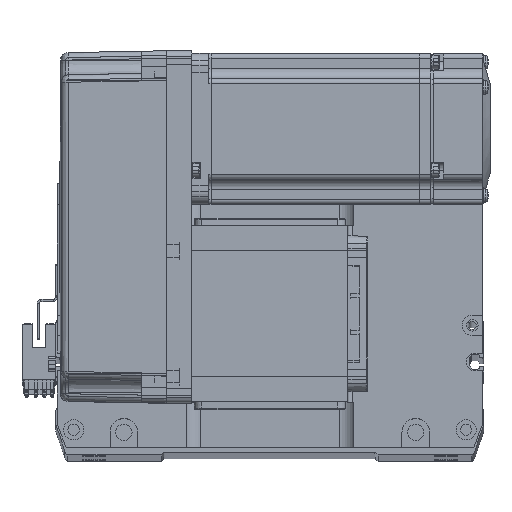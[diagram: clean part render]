
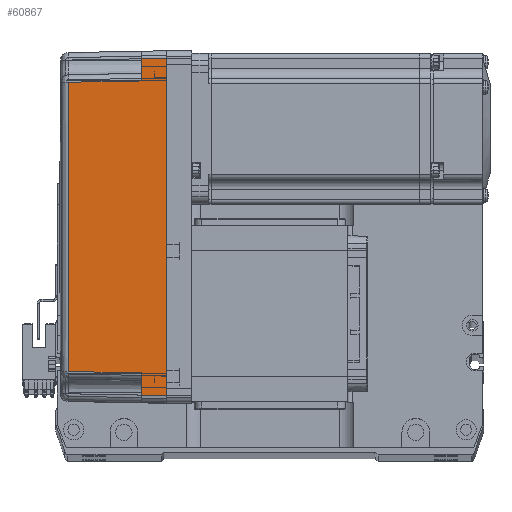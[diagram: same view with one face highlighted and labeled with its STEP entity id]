
A CAD part, top view. The second image highlights one B-rep face of the part: STEP entity #60867.
In plain terms, the highlighted planar face has unit normal (-0.018, 0, 1) as drawn and (0, 1, 0.017) by its records, which use the part's own axes.
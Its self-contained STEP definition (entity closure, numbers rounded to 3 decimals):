
#3043 = DIRECTION ( 'NONE',  ( 0.017, -0.017, 1. ) ) ;
#3334 = VERTEX_POINT ( 'NONE', #22622 ) ;
#3458 = ORIENTED_EDGE ( 'NONE', *, *, #5889, .T. ) ;
#3663 = EDGE_CURVE ( 'NONE', #31612, #22855, #25038, .T. ) ;
#3867 = CARTESIAN_POINT ( 'NONE',  ( 0., 36., 0. ) ) ;
#5514 = EDGE_CURVE ( 'NONE', #3334, #22604, #15429, .T. ) ;
#5823 = CARTESIAN_POINT ( 'NONE',  ( 70., 36., 0. ) ) ;
#5889 = EDGE_CURVE ( 'NONE', #41928, #41146, #9482, .T. ) ;
#6233 = LINE ( 'NONE', #19657, #42062 ) ;
#7284 = CARTESIAN_POINT ( 'NONE',  ( -58., 35.825, 10. ) ) ;
#7881 = LINE ( 'NONE', #16564, #31189 ) ;
#9482 = B_SPLINE_CURVE_WITH_KNOTS ( 'NONE', 3,
 ( #15211, #54615, #55255, #10201 ),
 .UNSPECIFIED., .F., .F.,
 ( 4, 4 ),
 ( 0., 1. ),
 .UNSPECIFIED. ) ;
#9633 = ORIENTED_EDGE ( 'NONE', *, *, #31115, .F. ) ;
#10201 = CARTESIAN_POINT ( 'NONE',  ( 57.495, 35.32, 38.985 ) ) ;
#12523 = ORIENTED_EDGE ( 'NONE', *, *, #5514, .T. ) ;
#13228 = LINE ( 'NONE', #3867, #17094 ) ;
#14586 = ORIENTED_EDGE ( 'NONE', *, *, #25040, .T. ) ;
#15088 = CARTESIAN_POINT ( 'NONE',  ( 66.826, 35.825, 10. ) ) ;
#15211 = CARTESIAN_POINT ( 'NONE',  ( -57.495, 35.32, 38.985 ) ) ;
#15429 = LINE ( 'NONE', #31960, #45763 ) ;
#16112 = DIRECTION ( 'NONE',  ( 0., -0.017, 1. ) ) ;
#16521 = VECTOR ( 'NONE', #56014, 1000. ) ;
#16564 = CARTESIAN_POINT ( 'NONE',  ( 70., 35.825, 10. ) ) ;
#17094 = VECTOR ( 'NONE', #18932, 1000. ) ;
#18932 = DIRECTION ( 'NONE',  ( 1., 0., 0. ) ) ;
#19657 = CARTESIAN_POINT ( 'NONE',  ( 57.495, 35.32, 38.985 ) ) ;
#21422 = ORIENTED_EDGE ( 'NONE', *, *, #30620, .T. ) ;
#22604 = VERTEX_POINT ( 'NONE', #7284 ) ;
#22622 = CARTESIAN_POINT ( 'NONE',  ( -66.826, 35.825, 10. ) ) ;
#22855 = VERTEX_POINT ( 'NONE', #15088 ) ;
#23257 = CARTESIAN_POINT ( 'NONE',  ( -58., 35.825, 10. ) ) ;
#23817 = CARTESIAN_POINT ( 'NONE',  ( 58., 35.825, 10. ) ) ;
#25038 = LINE ( 'NONE', #50978, #16521 ) ;
#25040 = EDGE_CURVE ( 'NONE', #22604, #41928, #34379, .T. ) ;
#29634 = DIRECTION ( 'NONE',  ( 0.017, 0.017, -1. ) ) ;
#30421 = AXIS2_PLACEMENT_3D ( 'NONE', #5823, #55696, #16112 ) ;
#30620 = EDGE_CURVE ( 'NONE', #41146, #39336, #6233, .T. ) ;
#31115 = EDGE_CURVE ( 'NONE', #43616, #31612, #13228, .T. ) ;
#31167 = CARTESIAN_POINT ( 'NONE',  ( 57.495, 35.32, 38.985 ) ) ;
#31189 = VECTOR ( 'NONE', #41124, 1000. ) ;
#31605 = LINE ( 'NONE', #63165, #60549 ) ;
#31612 = VERTEX_POINT ( 'NONE', #50991 ) ;
#31960 = CARTESIAN_POINT ( 'NONE',  ( 70., 35.825, 10. ) ) ;
#34379 = LINE ( 'NONE', #23257, #35902 ) ;
#35902 = VECTOR ( 'NONE', #62911, 1000. ) ;
#36462 = ORIENTED_EDGE ( 'NONE', *, *, #51463, .T. ) ;
#36494 = FACE_OUTER_BOUND ( 'NONE', #60746, .T. ) ;
#39336 = VERTEX_POINT ( 'NONE', #23817 ) ;
#41124 = DIRECTION ( 'NONE',  ( 1., 0., 0. ) ) ;
#41146 = VERTEX_POINT ( 'NONE', #31167 ) ;
#41537 = DIRECTION ( 'NONE',  ( 1., 0., 0. ) ) ;
#41928 = VERTEX_POINT ( 'NONE', #42830 ) ;
#42062 = VECTOR ( 'NONE', #29634, 1000. ) ;
#42830 = CARTESIAN_POINT ( 'NONE',  ( -57.495, 35.32, 38.985 ) ) ;
#43616 = VERTEX_POINT ( 'NONE', #48259 ) ;
#45763 = VECTOR ( 'NONE', #41537, 1000. ) ;
#47695 = ORIENTED_EDGE ( 'NONE', *, *, #3663, .F. ) ;
#48259 = CARTESIAN_POINT ( 'NONE',  ( -67., 36., 0. ) ) ;
#49578 = EDGE_CURVE ( 'NONE', #39336, #22855, #7881, .T. ) ;
#50688 = PLANE ( 'NONE',  #30421 ) ;
#50978 = CARTESIAN_POINT ( 'NONE',  ( 67.001, 36.001, -0.052 ) ) ;
#50991 = CARTESIAN_POINT ( 'NONE',  ( 67., 36., 0. ) ) ;
#51463 = EDGE_CURVE ( 'NONE', #43616, #3334, #31605, .T. ) ;
#52618 = ORIENTED_EDGE ( 'NONE', *, *, #49578, .T. ) ;
#54615 = CARTESIAN_POINT ( 'NONE',  ( -19.165, 35.316, 39.181 ) ) ;
#55255 = CARTESIAN_POINT ( 'NONE',  ( 19.165, 35.316, 39.181 ) ) ;
#55696 = DIRECTION ( 'NONE',  ( 0., 1., 0.017 ) ) ;
#56014 = DIRECTION ( 'NONE',  ( -0.017, -0.017, 1. ) ) ;
#60549 = VECTOR ( 'NONE', #3043, 1000. ) ;
#60746 = EDGE_LOOP ( 'NONE', ( #36462, #12523, #14586, #3458, #21422, #52618, #47695, #9633 ) ) ;
#60867 = ADVANCED_FACE ( 'NONE', ( #36494 ), #50688, .T. ) ;
#62911 = DIRECTION ( 'NONE',  ( 0.017, -0.017, 1. ) ) ;
#63165 = CARTESIAN_POINT ( 'NONE',  ( -67., 36., 0. ) ) ;
